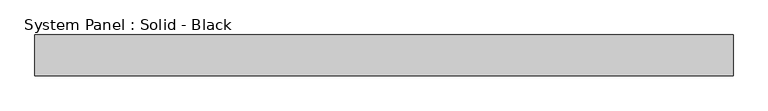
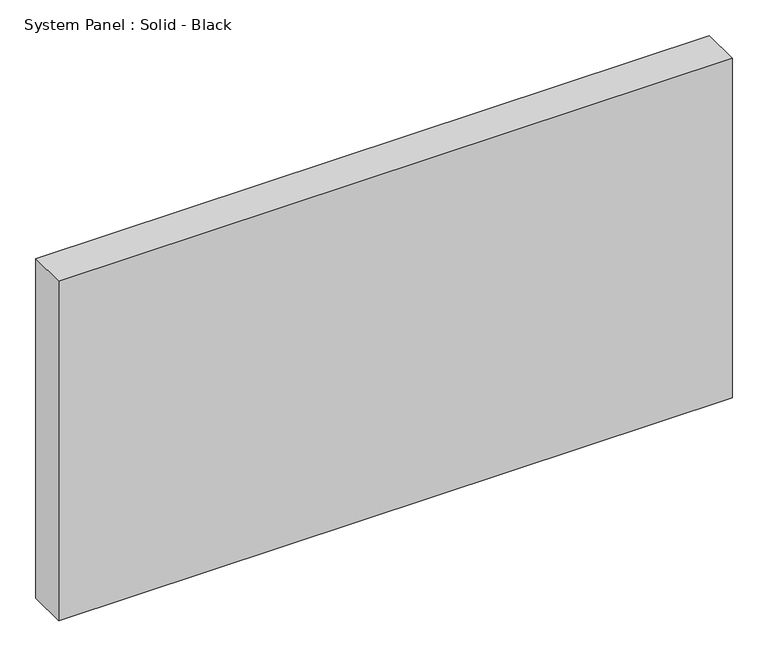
"""IFC4 building model written with IfcOpenShell, lengths in millimetres: plate geometry, System Panel : Solid - Black."""

from ifc_helpers import new_model, si_unit, origin, origin_with_axes, place, context, project, spatial, polyline, outline, extrude, source, transform, mapped, element, save


def system_panel_solid_black_d4f84b84(model_context):
    return source(origin(), model_context, "Body", "SweptSolid", [
        extrude(outline(polyline([(542.5906174, -19.05), (-542.5906174, -19.05), (-542.5906174, 44.45), (542.5906174, 44.45), (542.5906174, -19.05)])), origin_with_axes(), (0.0, 0.0, 1.0), 577.85),
    ])


if __name__ == "__main__":
    model = new_model("IFC4")
    model_context = context("Model", 3, world=origin())
    ifc_project = project(units=[si_unit("LENGTHUNIT", "METRE", prefix="MILLI")], contexts=[model_context])
    site = spatial("IfcSite", under=ifc_project)
    building = spatial("IfcBuilding", under=site)
    placement = place(None, origin())
    system_panel_solid_black_shape = system_panel_solid_black_d4f84b84(model_context)
    element("IfcPlate", 1, ObjectType="System Panel : Solid - Black", at=placement, inside=building, context=model_context, shape_type="MappedRepresentation", body=[
        mapped(system_panel_solid_black_shape, transform((0.0, 0.0, 0.0), x_axis=(1.0, 0.0, 0.0), y_axis=(0.0, 1.0, 0.0), z_axis=(0.0, 0.0, 1.0))),
    ])
    save(model, "model.ifc")
